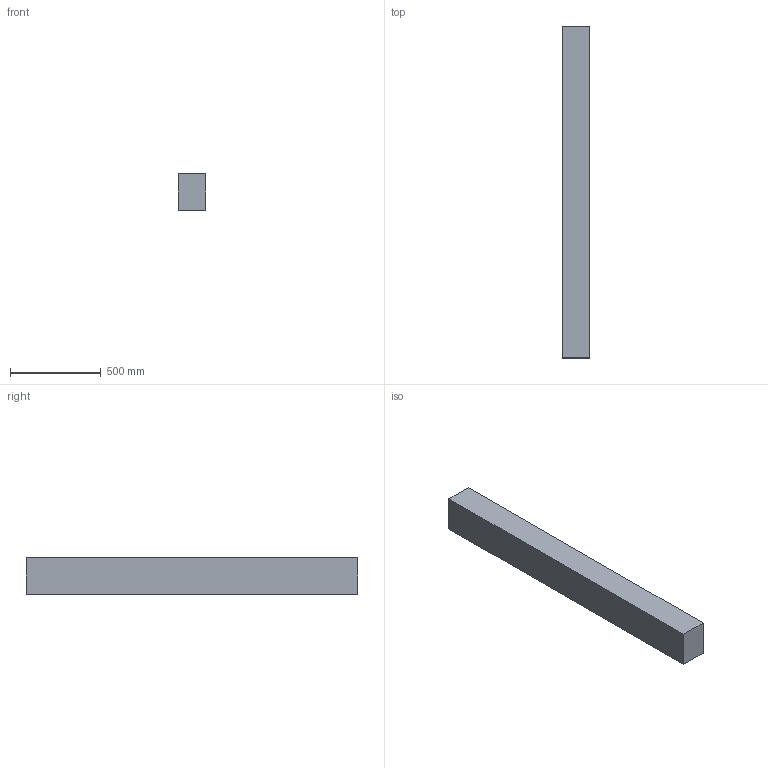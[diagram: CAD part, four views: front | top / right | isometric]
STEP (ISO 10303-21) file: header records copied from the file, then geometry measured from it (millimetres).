
FILE_DESCRIPTION(/* description */ (''),/* implementation_level */ '2;1');
FILE_NAME(/* name */ '6x8x72',/* time_stamp */ '2024-09-20T11:47:14-05:00',/* author */ (''),/* organization */ (''),/* preprocessor_version */ 'ST-DEVELOPER v19.2',/* originating_system */ 'Rhino 8.5',/* authorisation */ '');
FILE_SCHEMA (('CONFIG_CONTROL_DESIGN'));
Length unit declared in the file: inch
Products named in the file (1): Document
Bounding box: 152.4 x 1828.8 x 203.2 mm (x, y, z)
Volume: 56633693.2 mm3; surface area: 1362577.9 mm2
Topology: 1 solids, 1 shells, 6 faces, 12 edges, 8 vertices
Faces by surface type: plane 6
Entity records: 226 total; most frequent: CARTESIAN_POINT 40, ORIENTED_EDGE 24, EDGE_CURVE 12, B_SPLINE_CURVE_WITH_KNOTS 12, DIRECTION 10, VERTEX_POINT 8, AXIS2_PLACEMENT_3D 8, ORGANIZATION 7
